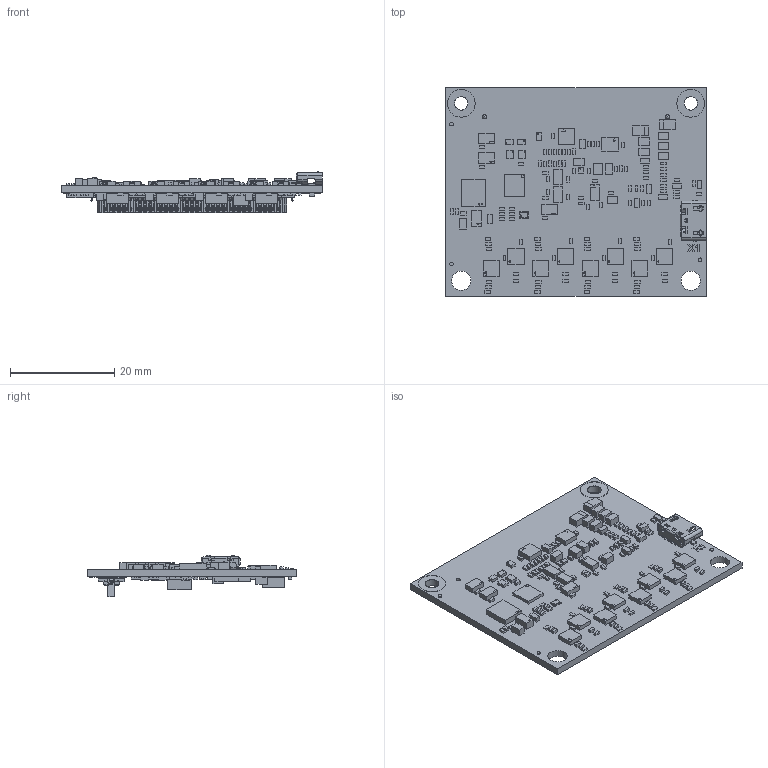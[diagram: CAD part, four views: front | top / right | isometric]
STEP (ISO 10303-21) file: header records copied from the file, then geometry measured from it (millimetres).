
FILE_DESCRIPTION(/* description */ (''),/* implementation_level */ '2;1');
FILE_NAME(/* name */ 'MC3602_B_RS-CO_MC3602_B_ET.stp',/* time_stamp */ '2024-01-10T13:45:23+01:00',/* author */ ('DR. FRITZ FAULHABER GmbH & Co. KG'),/* organization */ ('DR. FRITZ FAULHABER GmbH & Co. KG'),/* preprocessor_version */ 'ST-DEVELOPER v19.3',/* originating_system */ 'SIEMENS PLM Software NX2212.4000',/* authorisation */ '');
FILE_SCHEMA (('AUTOMOTIVE_DESIGN { 1 0 10303 214 3 1 1 1 }'));
Products named in the file (1): A_objects
Bounding box: 50 x 40 x 7.86 mm (x, y, z)
Volume: 3534.1 mm3; surface area: 6857.1 mm2
Topology: 1 solids, 1 shells, 5988 faces, 16946 edges, 11031 vertices
Faces by surface type: plane 4959, cylinder 1011, extrusion 10, sphere 6, bspline 2
Full cylindrical faces by diameter (mm): 0.6 x1, 0.635 x2, 0.7 x6, 0.8 x2, 0.9 x4, 2.6 x2, 3.7 x2
Entity records: 192427 total; most frequent: CARTESIAN_POINT 35084, ORIENTED_EDGE 33830, DIRECTION 30791, EDGE_CURVE 16915, VECTOR 14493, LINE 14483, VERTEX_POINT 11023, AXIS2_PLACEMENT_3D 8149
